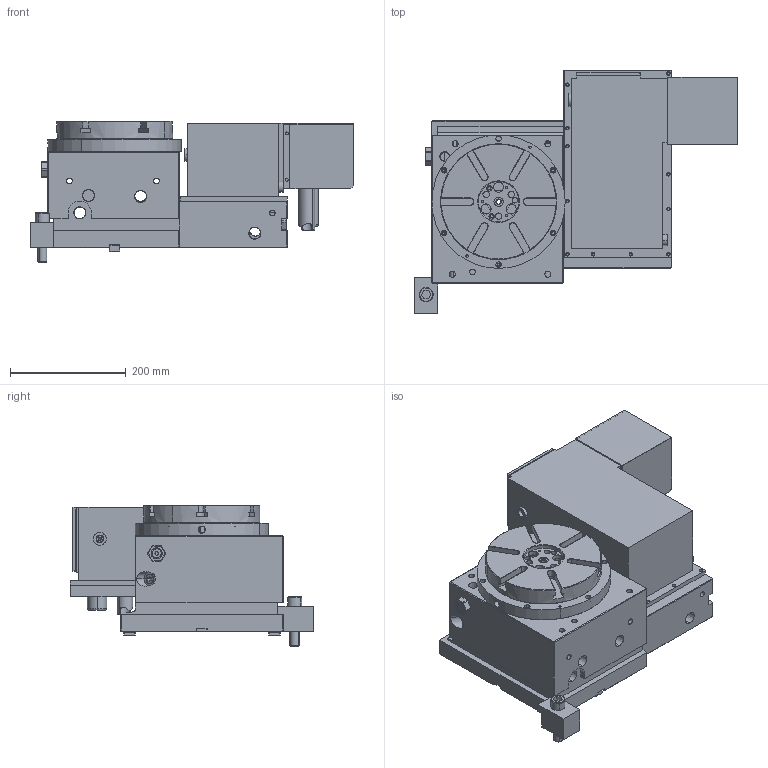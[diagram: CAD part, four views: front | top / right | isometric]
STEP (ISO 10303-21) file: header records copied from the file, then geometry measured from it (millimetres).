
FILE_DESCRIPTION (( 'STEP AP203' ), '1' );
FILE_NAME ('15091564 MT200R-5-09.STEP', '2020-12-05T05:17:33', ( '' ), ( '' ), 'SwSTEP 2.0', 'SolidWorks 2019', '' );
FILE_SCHEMA (( 'CONFIG_CONTROL_DESIGN' ));
Length unit declared in the file: millimetre
Products named in the file (1): 15091564 MT200R-5-09
Bounding box: 557 x 420 x 244 mm (x, y, z)
Surface area: 893850.5 mm2 (no closed solid volume)
Topology: 0 solids, 36 shells, 731 faces, 2124 edges, 1438 vertices
Faces by surface type: plane 345, cylinder 284, cone 90, torus 12
Entity records: 24804 total; most frequent: CARTESIAN_POINT 4897, DIRECTION 4388, ORIENTED_EDGE 3620, EDGE_CURVE 2124, AXIS2_PLACEMENT_3D 1601, VERTEX_POINT 1438, LINE 1186, VECTOR 1186
